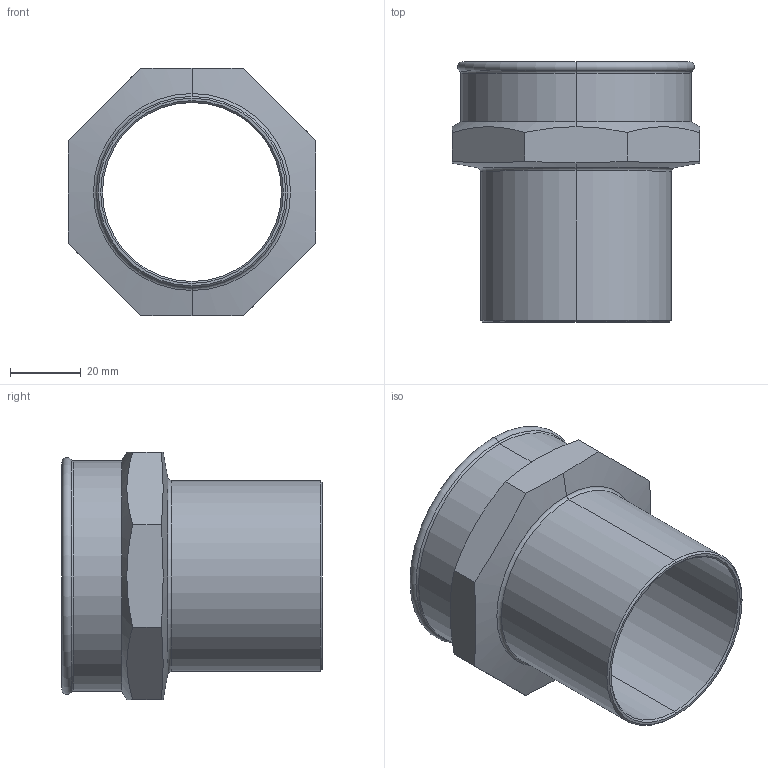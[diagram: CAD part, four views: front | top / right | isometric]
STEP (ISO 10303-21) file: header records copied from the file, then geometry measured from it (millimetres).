
FILE_DESCRIPTION (( 'STEP AP203' ), '1' );
FILE_NAME ('SP4281G Ø54 2.STEP', '2017-04-26T09:20:23', ( '' ), ( '' ), 'SwSTEP 2.0', 'SolidWorks 2016', '' );
FILE_SCHEMA (( 'CONFIG_CONTROL_DESIGN' ));
Length unit declared in the file: millimetre
Products named in the file (1): SP4281G ﾘ54 2
Bounding box: 70 x 73.5 x 70 mm (x, y, z)
Volume: 45703.2 mm3; surface area: 29223.6 mm2
Topology: 1 solids, 1 shells, 36 faces, 82 edges, 48 vertices
Faces by surface type: cone 12, plane 10, cylinder 8, torus 6
Entity records: 1185 total; most frequent: CARTESIAN_POINT 311, DIRECTION 170, ORIENTED_EDGE 164, EDGE_CURVE 82, AXIS2_PLACEMENT_3D 71, VERTEX_POINT 48, EDGE_LOOP 38, ADVANCED_FACE 36
